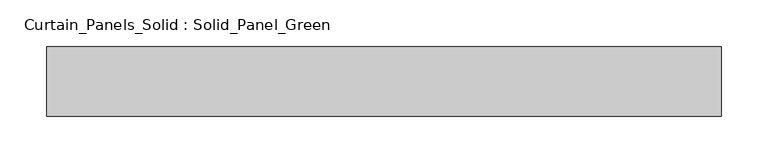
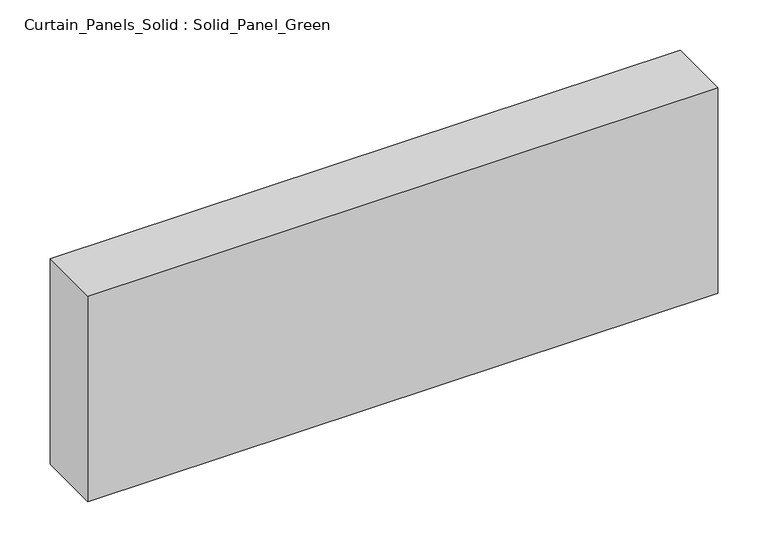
"""IFC4 building model written with IfcOpenShell, lengths in millimetres: plate geometry, Curtain_Panels_Solid : Solid_Panel_Green."""

from ifc_helpers import new_model, si_unit, origin, origin_with_axes, place, context, project, spatial, polyline, outline, extrude, source, transform, mapped, element, save


def curtain_panels_solid_solid_panel_green_d2b71c95(model_context):
    return source(origin(), model_context, "Body", "SweptSolid", [
        extrude(outline(polyline([(362.5, -25.0), (-362.5, -25.0), (-362.5, 50.0), (362.5, 50.0), (362.5, -25.0)])), origin_with_axes(), (0.0, 0.0, 1.0), 250.0),
    ])


if __name__ == "__main__":
    model = new_model("IFC4")
    model_context = context("Model", 3, world=origin())
    ifc_project = project(units=[si_unit("LENGTHUNIT", "METRE", prefix="MILLI")], contexts=[model_context])
    site = spatial("IfcSite", under=ifc_project)
    building = spatial("IfcBuilding", under=site)
    placement = place(None, origin())
    curtain_panels_solid_solid_panel_green_shape = curtain_panels_solid_solid_panel_green_d2b71c95(model_context)
    element("IfcPlate", 1, ObjectType="Curtain_Panels_Solid : Solid_Panel_Green", at=placement, inside=building, context=model_context, shape_type="MappedRepresentation", body=[
        mapped(curtain_panels_solid_solid_panel_green_shape, transform((0.0, 0.0, 0.0), x_axis=(1.0, 0.0, 0.0), y_axis=(0.0, 1.0, 0.0), z_axis=(0.0, 0.0, 1.0))),
    ])
    save(model, "model.ifc")
